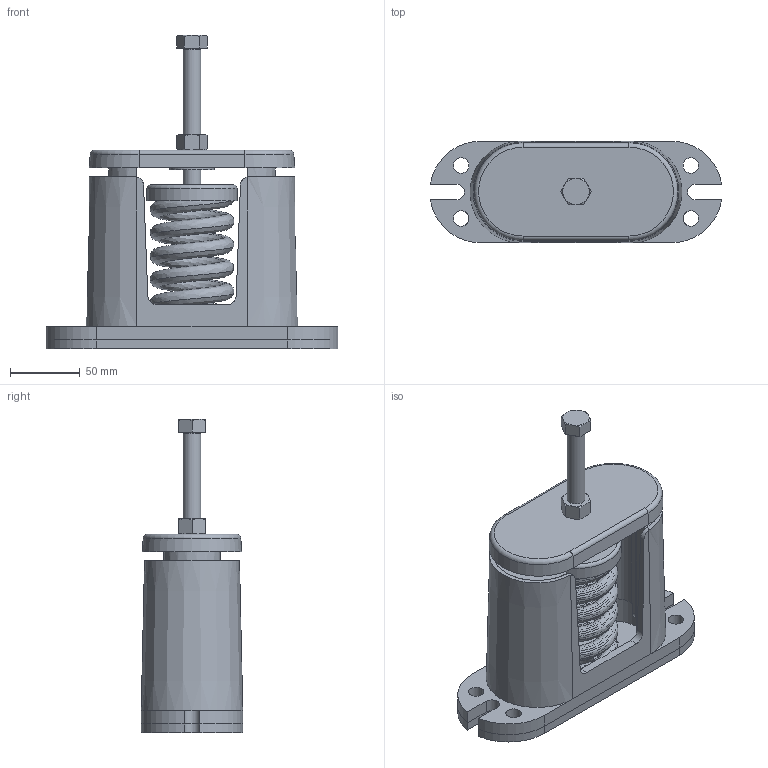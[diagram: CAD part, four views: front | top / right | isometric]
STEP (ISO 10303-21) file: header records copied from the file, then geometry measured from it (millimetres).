
FILE_DESCRIPTION(/* description */ (''),/* implementation_level */ '2;1');
FILE_NAME(/* name */ 'C:\001_Work\Designs\C MOUNTS\C-B, B2\C-B-1650.stp',/* time_stamp */ '2015-12-11T11:28:51-05:00',/* author */ ('rramoutar'),/* organization */ ('Mason Industries Inc.'),/* preprocessor_version */ 'ST-DEVELOPER v15.6',/* originating_system */ 'Autodesk Inventor 2015',/* authorisation */ '');
FILE_SCHEMA (('CONFIG_CONTROL_DESIGN'));
Length unit declared in the file: inch
Products named in the file (1): C-B-1650
Bounding box: 209.55 x 73.03 x 225.44 mm (x, y, z)
Volume: 629558.4 mm3; surface area: 220303 mm2
Topology: 1 solids, 3 shells, 213 faces, 528 edges, 335 vertices
Faces by surface type: plane 97, cylinder 52, cone 31, bspline 24, torus 9
Full cylindrical faces by diameter (mm): 11.112 x8, 12.7 x3, 25.4 x2, 31.75 x1, 61.119 x1, 64.914 x1
Entity records: 16004 total; most frequent: CARTESIAN_POINT 11036, ORIENTED_EDGE 980, DIRECTION 919, EDGE_CURVE 490, AXIS2_PLACEMENT_3D 350, VERTEX_POINT 325, EDGE_LOOP 267, LINE 219
